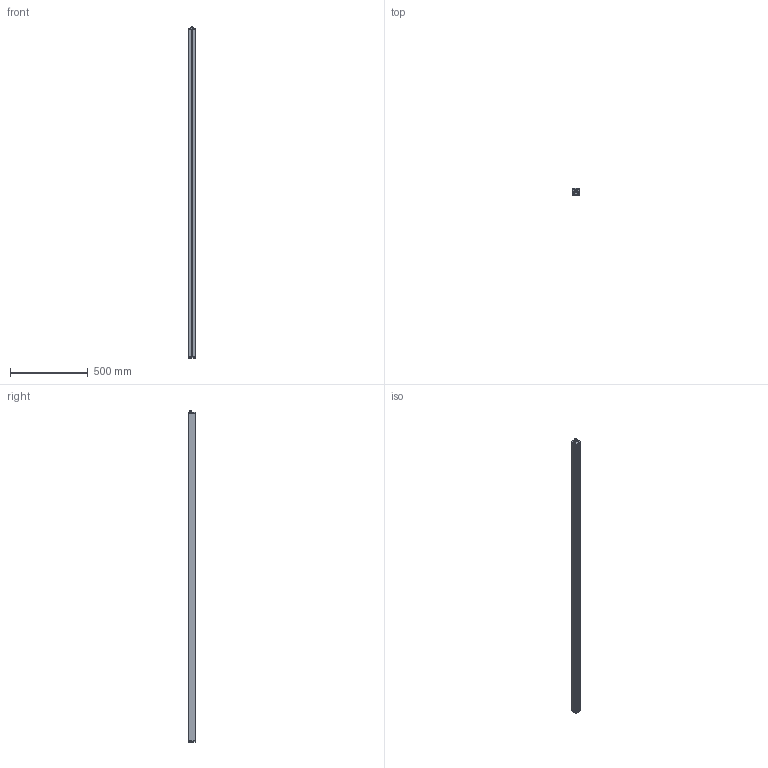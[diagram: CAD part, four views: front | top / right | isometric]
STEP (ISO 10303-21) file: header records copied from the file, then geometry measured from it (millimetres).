
FILE_DESCRIPTION (( 'STEP AP214' ), '1' );
FILE_NAME ('NBAR84.STEP', '2012-01-14T09:40:48', ( 'JRLEDS' ), ( '' ), 'SwSTEP 2.0', 'SolidWorks 2010', '' );
FILE_SCHEMA (( 'AUTOMOTIVE_DESIGN' ));
Length unit declared in the file: millimetre
Products named in the file (8): Embout ALU; PROT-NBAR84; screw_din_912-m5x0_8-10-8_8_Default; Embout percé ALU; SW3DPS-FISCHER_DBP_103_Z053-130-DEFAULT; CIR6LED; NBAR84; PROF-NBAR84
Assembly tree (23 placements, depth 2):
  NBAR84
    PROF-NBAR84
    CIR6LED  x14
    screw_din_912-m5x0_8-10-8_8_Default  x4
    SW3DPS-FISCHER_DBP_103_Z053-130-DEFAULT
    Embout percé ALU
    Embout ALU
    PROT-NBAR84
Bounding box: 45.1 x 45 x 2130 mm (x, y, z)
Volume: 1375226 mm3; surface area: 1321420.4 mm2
Topology: 107 solids, 107 shells, 888 faces, 1909 edges, 1234 vertices
Faces by surface type: plane 591, cylinder 259, cone 16, torus 14, sphere 8
Entity records: 9172 total; most frequent: DIRECTION 1322, CARTESIAN_POINT 1287, ORIENTED_EDGE 1180, EDGE_CURVE 590, AXIS2_PLACEMENT_3D 466, LINE 390, VECTOR 390, VERTEX_POINT 379
